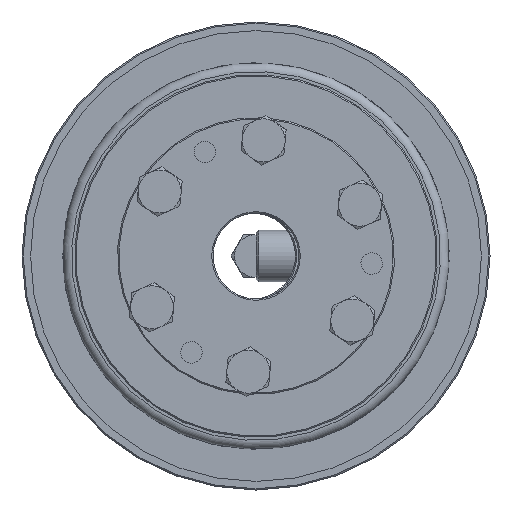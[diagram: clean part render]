
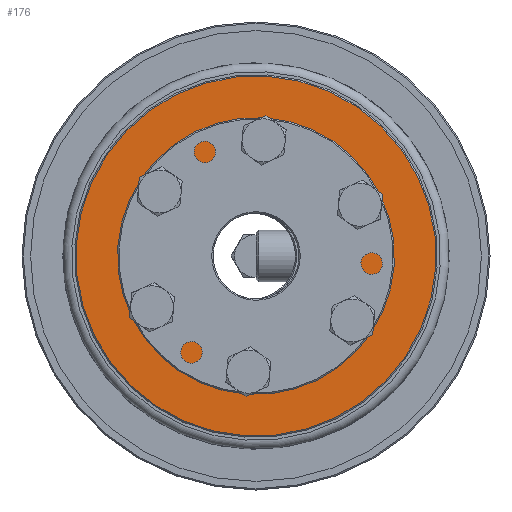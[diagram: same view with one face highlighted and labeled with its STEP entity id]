
A CAD part, left-side view. The second image highlights one B-rep face of the part: STEP entity #176.
In plain terms, the highlighted planar face has unit normal (-1, 0, 0) as drawn and (1, 0, 0) by its records, which use the part's own axes.
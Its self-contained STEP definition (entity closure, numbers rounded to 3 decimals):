
#176 = ADVANCED_FACE( 'NONE', ( #311, #312, #313, #314, #315, #316, #317, #318 ), #319, .F. );
#311 = FACE_OUTER_BOUND( '', #469, .T. );
#312 = FACE_BOUND( '', #470, .T. );
#313 = FACE_BOUND( '', #471, .T. );
#314 = FACE_BOUND( '', #472, .T. );
#315 = FACE_BOUND( '', #473, .T. );
#316 = FACE_BOUND( '', #474, .T. );
#317 = FACE_BOUND( '', #475, .T. );
#318 = FACE_BOUND( '', #476, .T. );
#319 = PLANE( '', #477 );
#469 = EDGE_LOOP( '', ( #809 ) );
#470 = EDGE_LOOP( '', ( #810 ) );
#471 = EDGE_LOOP( '', ( #811 ) );
#472 = EDGE_LOOP( '', ( #812 ) );
#473 = EDGE_LOOP( '', ( #813 ) );
#474 = EDGE_LOOP( '', ( #814 ) );
#475 = EDGE_LOOP( '', ( #815 ) );
#476 = EDGE_LOOP( '', ( #816 ) );
#477 = AXIS2_PLACEMENT_3D( '', #817, #818, #819 );
#809 = ORIENTED_EDGE( '', *, *, #1379, .T. );
#810 = ORIENTED_EDGE( '', *, *, #1404, .T. );
#811 = ORIENTED_EDGE( '', *, *, #1402, .F. );
#812 = ORIENTED_EDGE( '', *, *, #1400, .F. );
#813 = ORIENTED_EDGE( '', *, *, #1375, .F. );
#814 = ORIENTED_EDGE( '', *, *, #1393, .F. );
#815 = ORIENTED_EDGE( '', *, *, #1381, .F. );
#816 = ORIENTED_EDGE( '', *, *, #1405, .F. );
#817 = CARTESIAN_POINT( '', ( 20., 42.25, 0. ) );
#818 = DIRECTION( '', ( -1., 0., 0. ) );
#819 = DIRECTION( '', ( 0., 0., 1. ) );
#1375 = EDGE_CURVE( 'NONE', #1945, #1945, #1946, .T. );
#1379 = EDGE_CURVE( 'NONE', #1952, #1952, #1953, .T. );
#1381 = EDGE_CURVE( 'NONE', #1955, #1955, #1956, .T. );
#1393 = EDGE_CURVE( 'NONE', #1974, #1974, #1975, .T. );
#1400 = EDGE_CURVE( 'NONE', #1986, #1986, #1987, .T. );
#1402 = EDGE_CURVE( 'NONE', #1989, #1989, #1990, .T. );
#1404 = EDGE_CURVE( 'NONE', #1992, #1992, #1993, .T. );
#1405 = EDGE_CURVE( 'NONE', #1994, #1994, #1995, .T. );
#1945 = VERTEX_POINT( '', #3033 );
#1946 = CIRCLE( '', #3034, 3. );
#1952 = VERTEX_POINT( '', #3040 );
#1953 = CIRCLE( '', #3041, 41.95 );
#1955 = VERTEX_POINT( '', #3043 );
#1956 = CIRCLE( '', #3044, 3. );
#1974 = VERTEX_POINT( '', #3062 );
#1975 = CIRCLE( '', #3063, 3. );
#1986 = VERTEX_POINT( '', #3074 );
#1987 = CIRCLE( '', #3075, 3. );
#1989 = VERTEX_POINT( '', #3077 );
#1990 = CIRCLE( '', #3078, 3. );
#1992 = VERTEX_POINT( '', #3080 );
#1993 = CIRCLE( '', #3081, 23.558 );
#1994 = VERTEX_POINT( '', #3082 );
#1995 = CIRCLE( '', #3083, 3. );
#3033 = CARTESIAN_POINT( '', ( 20., 13.5, -26.383 ) );
#3034 = AXIS2_PLACEMENT_3D( '', #3344, #3345, #3346 );
#3040 = CARTESIAN_POINT( '', ( 20., 0., 41.95 ) );
#3041 = AXIS2_PLACEMENT_3D( '', #3353, #3354, #3355 );
#3043 = CARTESIAN_POINT( '', ( 20., -27., -3. ) );
#3044 = AXIS2_PLACEMENT_3D( '', #3356, #3357, #3358 );
#3062 = CARTESIAN_POINT( '', ( 20., -13.5, -26.383 ) );
#3063 = AXIS2_PLACEMENT_3D( '', #3377, #3378, #3379 );
#3074 = CARTESIAN_POINT( '', ( 20., 27., -3. ) );
#3075 = AXIS2_PLACEMENT_3D( '', #3392, #3393, #3394 );
#3077 = CARTESIAN_POINT( '', ( 20., -13.5, 20.383 ) );
#3078 = AXIS2_PLACEMENT_3D( '', #3395, #3396, #3397 );
#3080 = CARTESIAN_POINT( '', ( 20., 0., 23.558 ) );
#3081 = AXIS2_PLACEMENT_3D( '', #3398, #3399, #3400 );
#3082 = CARTESIAN_POINT( '', ( 20., 13.5, 20.383 ) );
#3083 = AXIS2_PLACEMENT_3D( '', #3401, #3402, #3403 );
#3344 = CARTESIAN_POINT( '', ( 20., 13.5, -23.383 ) );
#3345 = DIRECTION( '', ( 1., 0., 0. ) );
#3346 = DIRECTION( '', ( 0., 0., -1. ) );
#3353 = CARTESIAN_POINT( '', ( 20., 0., 0. ) );
#3354 = DIRECTION( '', ( 1., 0., 0. ) );
#3355 = DIRECTION( '', ( 0., 0., 1. ) );
#3356 = CARTESIAN_POINT( '', ( 20., -27., 0. ) );
#3357 = DIRECTION( '', ( 1., 0., 0. ) );
#3358 = DIRECTION( '', ( 0., 0., -1. ) );
#3377 = CARTESIAN_POINT( '', ( 20., -13.5, -23.383 ) );
#3378 = DIRECTION( '', ( 1., 0., 0. ) );
#3379 = DIRECTION( '', ( 0., 0., -1. ) );
#3392 = CARTESIAN_POINT( '', ( 20., 27., 0. ) );
#3393 = DIRECTION( '', ( 1., 0., 0. ) );
#3394 = DIRECTION( '', ( 0., 0., -1. ) );
#3395 = CARTESIAN_POINT( '', ( 20., -13.5, 23.383 ) );
#3396 = DIRECTION( '', ( 1., 0., 0. ) );
#3397 = DIRECTION( '', ( 0., 0., -1. ) );
#3398 = CARTESIAN_POINT( '', ( 20., 0., 0. ) );
#3399 = DIRECTION( '', ( -1., 0., 0. ) );
#3400 = DIRECTION( '', ( 0., 0., 1. ) );
#3401 = CARTESIAN_POINT( '', ( 20., 13.5, 23.383 ) );
#3402 = DIRECTION( '', ( 1., 0., 0. ) );
#3403 = DIRECTION( '', ( 0., 0., -1. ) );
